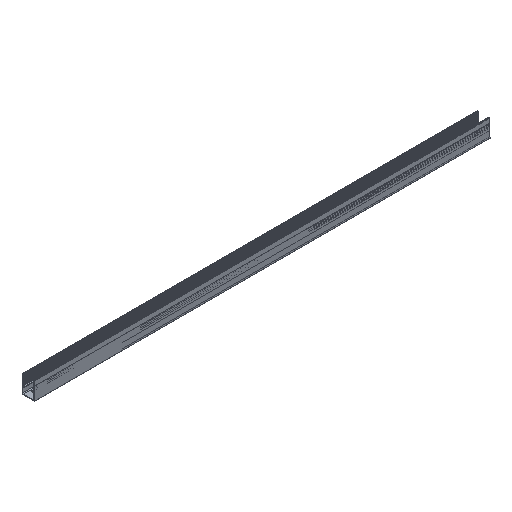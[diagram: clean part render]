
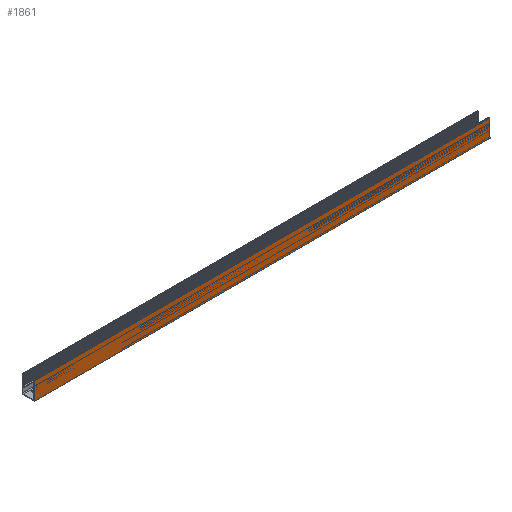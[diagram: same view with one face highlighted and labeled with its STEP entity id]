
A CAD part, isometric view. The second image highlights one B-rep face of the part: STEP entity #1861.
In plain terms, the highlighted planar face has unit normal (0, -1, 0).
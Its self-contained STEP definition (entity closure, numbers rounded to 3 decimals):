
#159=FACE_OUTER_BOUND('',#259,.T.);
#259=EDGE_LOOP('',(#1371,#1372,#1373,#1374));
#405=LINE('',#2838,#617);
#406=LINE('',#2841,#618);
#407=LINE('',#2843,#619);
#408=LINE('',#2844,#620);
#617=VECTOR('',#2225,10.);
#618=VECTOR('',#2228,10.);
#619=VECTOR('',#2229,10.);
#620=VECTOR('',#2230,10.);
#823=VERTEX_POINT('',#2834);
#824=VERTEX_POINT('',#2836);
#825=VERTEX_POINT('',#2840);
#826=VERTEX_POINT('',#2842);
#1047=EDGE_CURVE('',#823,#824,#405,.T.);
#1048=EDGE_CURVE('',#825,#823,#406,.T.);
#1049=EDGE_CURVE('',#826,#824,#407,.T.);
#1050=EDGE_CURVE('',#825,#826,#408,.T.);
#1371=ORIENTED_EDGE('',*,*,#1048,.T.);
#1372=ORIENTED_EDGE('',*,*,#1047,.T.);
#1373=ORIENTED_EDGE('',*,*,#1049,.F.);
#1374=ORIENTED_EDGE('',*,*,#1050,.F.);
#1778=PLANE('',#1985);
#1861=ADVANCED_FACE('',(#159),#1778,.T.);
#1985=AXIS2_PLACEMENT_3D('',#2839,#2226,#2227);
#2225=DIRECTION('',(1.,0.,0.));
#2226=DIRECTION('center_axis',(0.,-1.,0.));
#2227=DIRECTION('ref_axis',(0.,0.,-1.));
#2228=DIRECTION('',(0.,0.,-1.));
#2229=DIRECTION('',(0.,0.,-1.));
#2230=DIRECTION('',(1.,0.,0.));
#2834=CARTESIAN_POINT('',(0.,-13.843,0.45));
#2836=CARTESIAN_POINT('',(1000.,-13.843,0.45));
#2838=CARTESIAN_POINT('',(0.,-13.843,0.45));
#2839=CARTESIAN_POINT('Origin',(0.,-13.843,38.929));
#2840=CARTESIAN_POINT('',(0.,-13.843,38.929));
#2841=CARTESIAN_POINT('',(0.,-13.843,38.929));
#2842=CARTESIAN_POINT('',(1000.,-13.843,38.929));
#2843=CARTESIAN_POINT('',(1000.,-13.843,38.929));
#2844=CARTESIAN_POINT('',(0.,-13.843,38.929));
